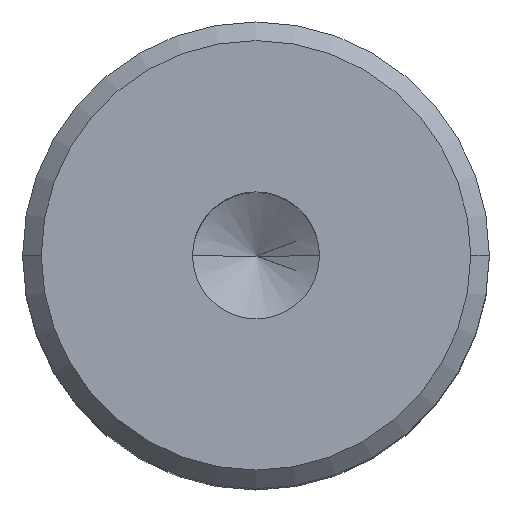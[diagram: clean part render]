
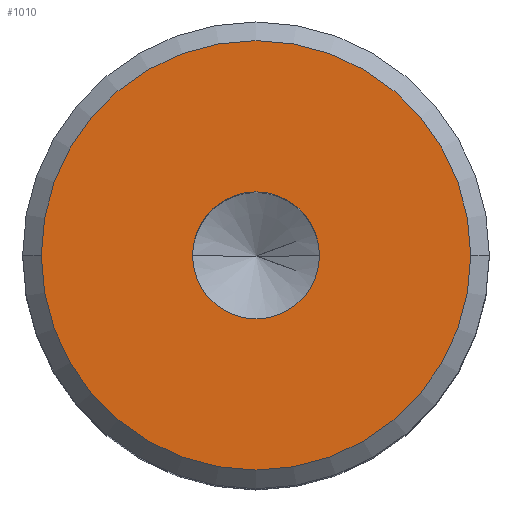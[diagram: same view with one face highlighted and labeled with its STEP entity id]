
A CAD part, top view. The second image highlights one B-rep face of the part: STEP entity #1010.
In plain terms, the highlighted planar face has unit normal (0, 0, 1).
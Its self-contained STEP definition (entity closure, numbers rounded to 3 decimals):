
#1 = CARTESIAN_POINT ( 'NONE',  ( -3.4, 0., 20. ) ) ;
#8 = AXIS2_PLACEMENT_3D ( 'NONE', #790, #558, #1050 ) ;
#28 = VERTEX_POINT ( 'NONE', #509 ) ;
#29 = DIRECTION ( 'NONE',  ( 1., 0., 0. ) ) ;
#57 = CARTESIAN_POINT ( 'NONE',  ( 3.4, 0., 20. ) ) ;
#59 = ORIENTED_EDGE ( 'NONE', *, *, #436, .T. ) ;
#71 = VERTEX_POINT ( 'NONE', #1 ) ;
#90 = DIRECTION ( 'NONE',  ( 1., 0., 0. ) ) ;
#94 = PLANE ( 'NONE',  #998 ) ;
#95 = CIRCLE ( 'NONE', #8, 3.4 ) ;
#99 = CARTESIAN_POINT ( 'NONE',  ( -11.5, 0., 20. ) ) ;
#116 = CARTESIAN_POINT ( 'NONE',  ( 0., 0., 20. ) ) ;
#144 = VERTEX_POINT ( 'NONE', #99 ) ;
#151 = EDGE_LOOP ( 'NONE', ( #494, #947 ) ) ;
#180 = CIRCLE ( 'NONE', #422, 3.4 ) ;
#191 = AXIS2_PLACEMENT_3D ( 'NONE', #759, #520, #29 ) ;
#280 = AXIS2_PLACEMENT_3D ( 'NONE', #116, #766, #1022 ) ;
#356 = DIRECTION ( 'NONE',  ( 0., 0., 1. ) ) ;
#422 = AXIS2_PLACEMENT_3D ( 'NONE', #771, #356, #850 ) ;
#436 = EDGE_CURVE ( 'NONE', #144, #28, #1035, .T. ) ;
#479 = EDGE_CURVE ( 'NONE', #1048, #71, #180, .T. ) ;
#494 = ORIENTED_EDGE ( 'NONE', *, *, #479, .F. ) ;
#501 = FACE_BOUND ( 'NONE', #151, .T. ) ;
#505 = EDGE_CURVE ( 'NONE', #28, #144, #827, .T. ) ;
#509 = CARTESIAN_POINT ( 'NONE',  ( 11.5, 0., 20. ) ) ;
#517 = EDGE_LOOP ( 'NONE', ( #59, #1023 ) ) ;
#520 = DIRECTION ( 'NONE',  ( 0., 0., 1. ) ) ;
#558 = DIRECTION ( 'NONE',  ( 0., 0., 1. ) ) ;
#743 = CARTESIAN_POINT ( 'NONE',  ( 0., 0., 20. ) ) ;
#753 = FACE_OUTER_BOUND ( 'NONE', #517, .T. ) ;
#759 = CARTESIAN_POINT ( 'NONE',  ( 0., 0., 20. ) ) ;
#766 = DIRECTION ( 'NONE',  ( 0., 0., 1. ) ) ;
#771 = CARTESIAN_POINT ( 'NONE',  ( 0., 0., 20. ) ) ;
#790 = CARTESIAN_POINT ( 'NONE',  ( 0., 0., 20. ) ) ;
#827 = CIRCLE ( 'NONE', #191, 11.5 ) ;
#850 = DIRECTION ( 'NONE',  ( 1., 0., 0. ) ) ;
#947 = ORIENTED_EDGE ( 'NONE', *, *, #1030, .F. ) ;
#998 = AXIS2_PLACEMENT_3D ( 'NONE', #743, #999, #90 ) ;
#999 = DIRECTION ( 'NONE',  ( 0., 0., 1. ) ) ;
#1010 = ADVANCED_FACE ( 'NONE', ( #753, #501 ), #94, .T. ) ;
#1022 = DIRECTION ( 'NONE',  ( 1., 0., 0. ) ) ;
#1023 = ORIENTED_EDGE ( 'NONE', *, *, #505, .T. ) ;
#1030 = EDGE_CURVE ( 'NONE', #71, #1048, #95, .T. ) ;
#1035 = CIRCLE ( 'NONE', #280, 11.5 ) ;
#1048 = VERTEX_POINT ( 'NONE', #57 ) ;
#1050 = DIRECTION ( 'NONE',  ( 1., 0., 0. ) ) ;
